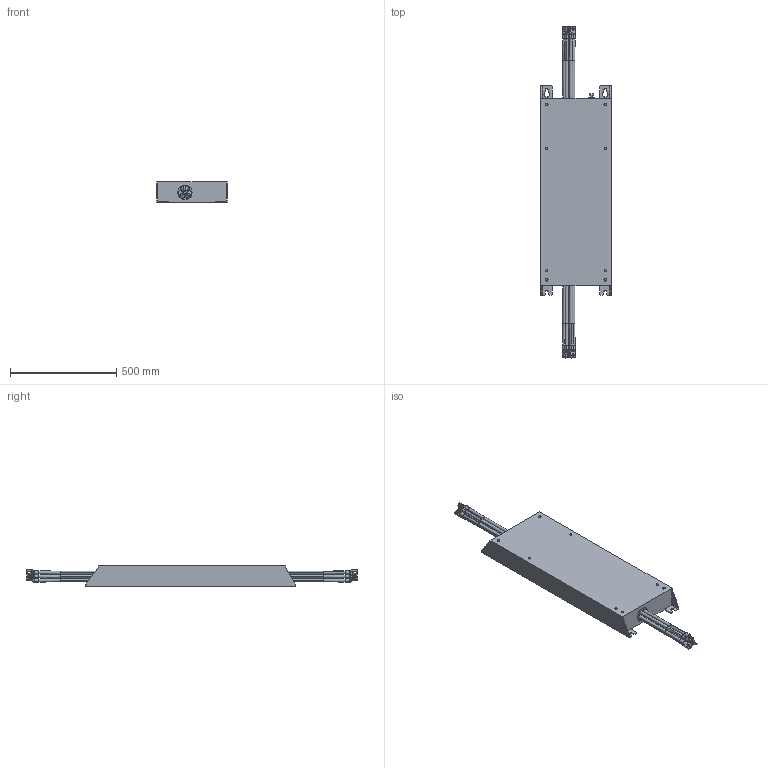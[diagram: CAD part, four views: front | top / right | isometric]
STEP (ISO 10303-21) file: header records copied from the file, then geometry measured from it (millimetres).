
FILE_DESCRIPTION (( 'STEP AP214' ), '1' );
FILE_NAME ('00E6X00-0030.STEP', '2023-07-12T09:05:31', ( '' ), ( '' ), 'SwSTEP 2.0', 'SolidWorks 2022', '' );
FILE_SCHEMA (( 'AUTOMOTIVE_DESIGN' ));
Length unit declared in the file: millimetre
Products named in the file (1): 00E6X00-0030
Bounding box: 330 x 1560 x 98 mm (x, y, z)
Volume: 29224975.1 mm3; surface area: 1052590.7 mm2
Topology: 1 solids, 1 shells, 445 faces, 1145 edges, 732 vertices
Faces by surface type: cylinder 165, plane 145, bspline 133, torus 2
Entity records: 24350 total; most frequent: CARTESIAN_POINT 14444, ORIENTED_EDGE 2290, DIRECTION 1477, EDGE_CURVE 1145, VERTEX_POINT 732, AXIS2_PLACEMENT_3D 517, EDGE_LOOP 503, B_SPLINE_CURVE_WITH_KNOTS 498
